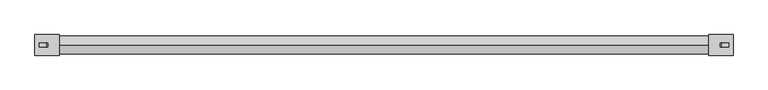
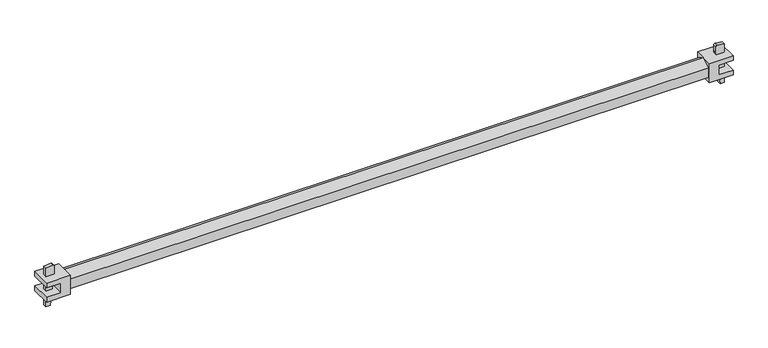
"""IFC4 building model written with IfcOpenShell, lengths in millimetres: proxy geometry, AK_アルバトロスＡＫ布材L=1500_軽 : AK_アルバトロスＡＫ布材L=1500_軽."""

from ifc_helpers import new_model, si_unit, point, frame, frame_2d, origin, place, context, project, spatial, polyline, circle_curve, trimmed, segment, composite_curve, outline, extrude, source, transform, mapped, element, save


def generic_models_34d79544(model_context):
    return source(origin(), model_context, "Body", "SweptSolid", [
        extrude(outline(polyline([(-10.75, 21.0591948), (-21.5, 21.0591948), (-21.5, 71.4999948), (21.5, 71.4999948), (21.5, 21.0591948), (10.75, 21.0591948), (10.75, 51.2999948), (-10.75, 51.2999948), (-10.75, 21.0591948)])), frame((0.0, -21.5, 0.0), z_axis=(0.0, 1.0, 0.0), x_axis=(0.0, 0.0, 1.0)), (0.0, 0.0, 1.0), 43.0),
        extrude(outline(composite_curve([segment(trimmed(circle_curve(frame_2d((39.0692, 44.7999948)), 3.0), [point((39.0692, 47.7999948))], [point((42.0590201, 44.5530624))], False, "CARTESIAN"), True, "CONTINUOUS"), segment(polyline([(42.0590201, 44.5530624), (40.7682926, 29.7999948), (-45.68165, 29.7999948), (-45.68165, 38.5388196), (27.3200065, 47.7999948), (39.0692, 47.7999948)]), True, "CONTINUOUS")], self_intersect=False)), frame((0.0, -4.0, 0.0), z_axis=(0.0, 1.0, 0.0), x_axis=(0.0, 0.0, 1.0)), (0.0, 0.0, 1.0), 8.0),
        extrude(outline(polyline([(-10.75, 1478.9408), (-10.75, 1448.7), (10.75, 1448.7), (10.75, 1478.9408), (21.5, 1478.9408), (21.5, 1428.5), (-21.5, 1428.5), (-21.5, 1478.9408), (-10.75, 1478.9408)])), frame((0.0, -21.5, 0.0), z_axis=(0.0, 1.0, 0.0), x_axis=(0.0, 0.0, 1.0)), (0.0, 0.0, 1.0), 43.0),
        extrude(outline(composite_curve([segment(polyline([(39.0692, 1452.2), (27.3200065, 1452.2), (-45.68165, 1461.4611752), (-45.68165, 1470.2), (40.7682926, 1470.2), (42.0590201, 1455.4469324)]), True, "CONTINUOUS"), segment(trimmed(circle_curve(frame_2d((39.0692, 1455.2)), 3.0), [point((42.0590201, 1455.4469324))], [point((39.0692, 1452.2))], False, "CARTESIAN"), True, "CONTINUOUS")], self_intersect=False)), frame((0.0, -4.0, 0.0), z_axis=(0.0, 1.0, 0.0), x_axis=(0.0, 0.0, 1.0)), (0.0, 0.0, 1.0), 8.0),
        extrude(outline(polyline([(-18.4896424, 10.675), (0.0, 21.35), (18.4896424, 10.675), (18.4896424, -10.675), (0.0, -21.35), (-18.4896424, -10.675), (-18.4896424, 10.675)])), frame((71.4999948, 0.0, 0.0), z_axis=(1.0, 0.0, 0.0), x_axis=(0.0, 1.0, 0.0)), (0.0, 0.0, 1.0), 1357.0000052),
    ])


if __name__ == "__main__":
    model = new_model("IFC4")
    model_context = context("Model", 3, world=origin())
    ifc_project = project(units=[si_unit("LENGTHUNIT", "METRE", prefix="MILLI")], contexts=[model_context])
    site = spatial("IfcSite", under=ifc_project)
    building = spatial("IfcBuilding", under=site)
    placement = place(None, origin())
    generic_models_shape = generic_models_34d79544(model_context)
    element("IfcBuildingElementProxy", 1, Name="AK_アルバトロスＡＫ布材L=1500_軽 : AK_アルバトロスＡＫ布材L=1500_軽", ObjectType="AK_アルバトロスＡＫ布材L=1500_軽 : AK_アルバトロスＡＫ布材L=1500_軽", at=placement, inside=building, context=model_context, shape_type="MappedRepresentation", body=[
        mapped(generic_models_shape, transform((0.0, 0.0, 0.0), x_axis=(1.0, 0.0, 0.0), y_axis=(0.0, 1.0, 0.0), z_axis=(0.0, 0.0, 1.0))),
    ])
    save(model, "model.ifc")
